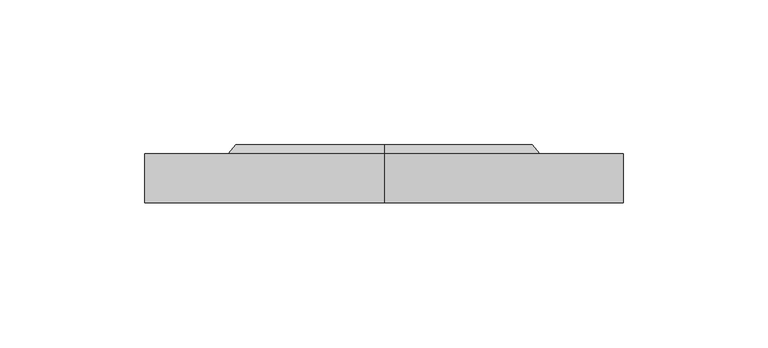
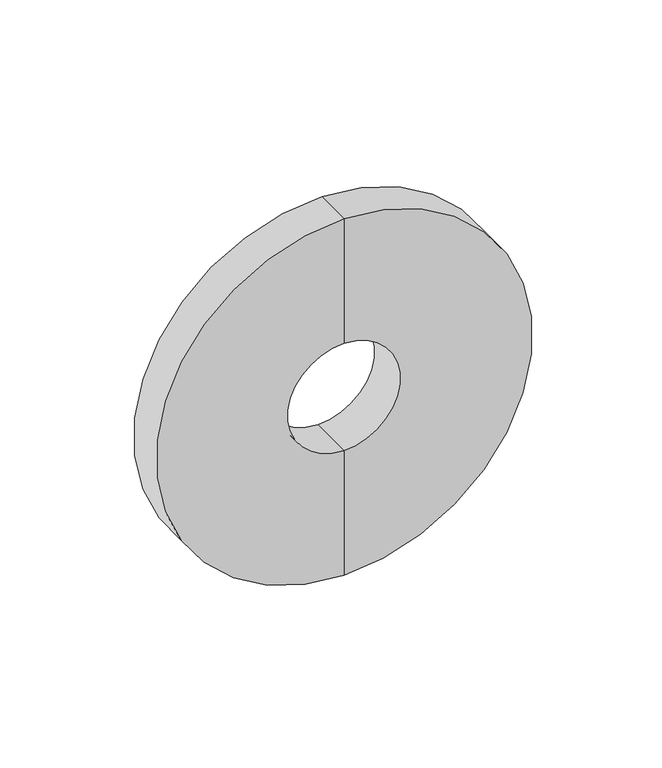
"""IFC4 building model written with IfcOpenShell, lengths in millimetres: pipe fitting geometry, Фланец : Фланец."""

from ifc_helpers import new_model, si_unit, frame, origin, place, context, project, spatial, polyline, circle_curve, source, transform, mapped, element, save
from ifc_brep_helpers import plane_surface, cylinder_surface, revolved_surface, advanced_brep


def pipe_fitting_f6bf362b(model_context):
    return source(origin(), model_context, "Body", "AdvancedBrep", [
        advanced_brep(
        [(0.0, 0.0, -83.0), (0.0, 0.0, 83.0), (0.0, 17.0, 83.0), (0.0, 17.0, -83.0), (0.0, 0.0, -25.0), (0.0, 0.0, 25.0), (0.0, 20.0, -25.0), (0.0, 20.0, 25.0), (0.0, 20.0, -51.5), (0.0, 20.0, 51.5), (0.0, 17.0, -54.0), (0.0, 17.0, 54.0)],
        [
            (0, 1, circle_curve(frame((0.0, 0.0, 0.0), z_axis=(0.0, 1.0, 0.0), x_axis=(0.0, 0.0, 1.0)), 83.0)),
            (1, 2),
            (2, 3, circle_curve(frame((0.0, 17.0, 0.0), z_axis=(0.0, -1.0, 0.0), x_axis=(0.0, 0.0, 1.0)), 83.0)),
            (3, 0),
            (1, 0, circle_curve(frame((0.0, 0.0, 0.0), z_axis=(0.0, 1.0, 0.0), x_axis=(0.0, 0.0, 1.0)), 83.0)),
            (3, 2, circle_curve(frame((0.0, 17.0, 0.0), z_axis=(0.0, -1.0, 0.0), x_axis=(0.0, 0.0, 1.0)), 83.0)),
            (4, 5, circle_curve(frame((0.0, 0.0, 0.0), z_axis=(0.0, 1.0, 0.0), x_axis=(0.0, 0.0, 1.0)), 25.0)),
            (5, 1),
            (0, 4),
            (5, 4, circle_curve(frame((0.0, 0.0, 0.0), z_axis=(0.0, 1.0, 0.0), x_axis=(0.0, 0.0, 1.0)), 25.0)),
            (6, 7, circle_curve(frame((0.0, 20.0, 0.0), z_axis=(0.0, 1.0, 0.0), x_axis=(0.0, 0.0, 1.0)), 25.0)),
            (7, 5),
            (4, 6),
            (7, 6, circle_curve(frame((0.0, 20.0, 0.0), z_axis=(0.0, 1.0, 0.0), x_axis=(0.0, 0.0, 1.0)), 25.0)),
            (8, 9, circle_curve(frame((0.0, 20.0, 0.0), z_axis=(0.0, 1.0, 0.0), x_axis=(0.0, 0.0, 1.0)), 51.5)),
            (9, 7),
            (6, 8),
            (9, 8, circle_curve(frame((0.0, 20.0, 0.0), z_axis=(0.0, 1.0, 0.0), x_axis=(0.0, 0.0, 1.0)), 51.5)),
            (10, 11, circle_curve(frame((0.0, 17.0, 0.0), z_axis=(0.0, 1.0, 0.0), x_axis=(0.0, 0.0, 1.0)), 54.0)),
            (11, 9),
            (8, 10),
            (11, 10, circle_curve(frame((0.0, 17.0, 0.0), z_axis=(0.0, 1.0, 0.0), x_axis=(0.0, 0.0, 1.0)), 54.0)),
            (2, 11),
            (10, 3),
        ],
        [
            cylinder_surface(frame((0.0, -60.0, 0.0), z_axis=(0.0, -1.0, 0.0), x_axis=(0.0, 0.0, 1.0)), 83.0),
            plane_surface(frame((0.0, 0.0, 0.0), z_axis=(0.0, -1.0, 0.0), x_axis=(0.0, 0.0, 1.0))),
            revolved_surface(polyline([(0.0, 0.0, 25.0), (0.0, 20.0, 25.0)]), (0.0, -60.0, 0.0), (0.0, -1.0, 0.0)),
            plane_surface(frame((0.0, 20.0, 0.0), z_axis=(0.0, 1.0, 0.0), x_axis=(0.0, 0.0, 1.0))),
            revolved_surface(polyline([(0.0, 20.0, 51.5), (0.0, 17.0, 54.0)]), (0.0, -60.0, 0.0), (0.0, -1.0, 0.0)),
            plane_surface(frame((0.0, 17.0, 0.0), z_axis=(0.0, 1.0, 0.0), x_axis=(0.0, 0.0, 1.0))),
        ],
        [
            (0, [[1, 2, 3, 4]]),
            (0, [[5, -4, 6, -2]]),
            (1, [[7, 8, -1, 9]]),
            (1, [[10, -9, -5, -8]]),
            (2, [[11, 12, -7, 13]]),
            (2, [[14, -13, -10, -12]]),
            (3, [[15, 16, -11, 17]]),
            (3, [[18, -17, -14, -16]]),
            (4, [[19, 20, -15, 21]]),
            (4, [[22, -21, -18, -20]]),
            (5, [[-3, 23, -19, 24]]),
            (5, [[-6, -24, -22, -23]]),
        ],
    ),
    ])


if __name__ == "__main__":
    model = new_model("IFC4")
    model_context = context("Model", 3, world=origin())
    ifc_project = project(units=[si_unit("LENGTHUNIT", "METRE", prefix="MILLI")], contexts=[model_context])
    site = spatial("IfcSite", under=ifc_project)
    building = spatial("IfcBuilding", under=site)
    placement = place(None, origin())
    pipe_fitting_shape = pipe_fitting_f6bf362b(model_context)
    element("IfcPipeFitting", 1, ObjectType="Фланец : Фланец", at=placement, inside=building, context=model_context, shape_type="MappedRepresentation", body=[
        mapped(pipe_fitting_shape, transform((0.0, 0.0, 0.0), x_axis=(1.0, 0.0, 0.0), y_axis=(0.0, 1.0, 0.0), z_axis=(0.0, 0.0, 1.0))),
    ])
    save(model, "model.ifc")
